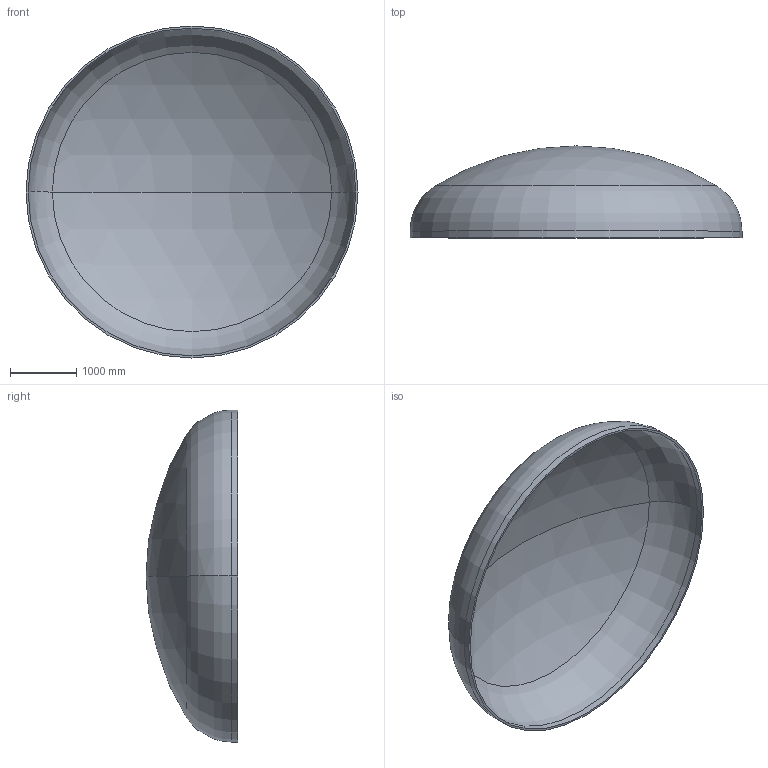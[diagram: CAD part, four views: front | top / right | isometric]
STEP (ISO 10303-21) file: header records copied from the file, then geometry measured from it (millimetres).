
FILE_DESCRIPTION (( 'STEP AP203' ), '1' );
FILE_NAME ('DIN 28013 Korbbogenform_-_Boden DIN 28013 - 5000 x 100 - I - s=32.step', '2016-07-02T00:21:10', ( '' ), ( '' ), 'SwSTEP 2.0', 'SolidWorks 2013', '' );
FILE_SCHEMA (( 'CONFIG_CONTROL_DESIGN' ));
Length unit declared in the file: millimetre
Products named in the file (1): DIN 28013 Korbbogenform_-_Boden DIN 28013 - 5000 x 100 - I - s=32
Bounding box: 5000 x 1384.33 x 5000 mm (x, y, z)
Volume: 912839234.5 mm3; surface area: 57554012.5 mm2
Topology: 1 solids, 1 shells, 13 faces, 24 edges, 14 vertices
Faces by surface type: torus 4, cylinder 4, sphere 4, plane 1
Entity records: 407 total; most frequent: DIRECTION 72, CARTESIAN_POINT 52, ORIENTED_EDGE 48, AXIS2_PLACEMENT_3D 34, EDGE_CURVE 24, CIRCLE 20, VERTEX_POINT 14, EDGE_LOOP 14
